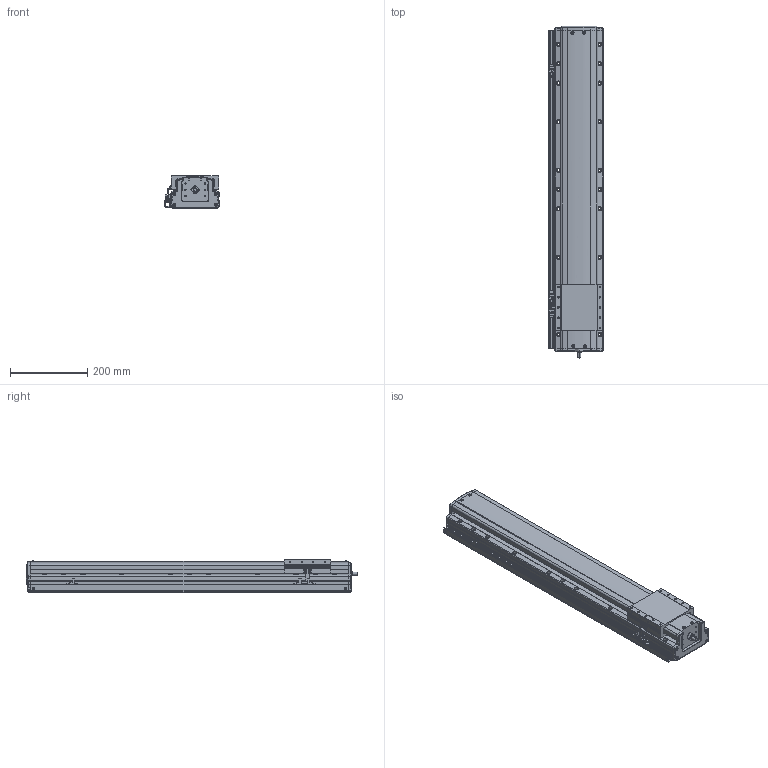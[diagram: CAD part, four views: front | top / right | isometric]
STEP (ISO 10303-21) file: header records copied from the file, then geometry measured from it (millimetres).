
FILE_DESCRIPTION(('STEP AP214'),'1');
FILE_NAME('Z:/Web/3D/PSA125/STP/PSA125-600 (3D)/PSA125ㅁㅁ-600+3SL.stp','2014-06-23T00:26:21',(' '),(' '),'Spatial InterOp 3D',' ',' ');
FILE_SCHEMA(('automotive_design'));
Length unit declared in the file: millimetre
Products named in the file (36): EE-SX674; SBK-SX674-352; 스크루 : Round - M3.0 x 6.0; M3.0 x 6.0; SRL-16x17-380L; SGD-PA95; 스크루 : Round - M3.0 x 8.0; 스크루 : Round - M4.0 x 10.0; RRCV-PA120; SLIDE; BASE; FRCV-PA120-1(기준 뿔 제거); RR1500; 스크루 : Round - M4.0 x 6.0
Bounding box: 141 x 858.1 x 86 mm (x, y, z)
Volume: 7105191 mm3; surface area: 673105.6 mm2
Topology: 36 solids, 36 shells, 2375 faces, 6357 edges, 4082 vertices
Faces by surface type: plane 1367, cylinder 672, cone 228, sphere 52, bspline 31, torus 25
Entity records: 95177 total; most frequent: CARTESIAN_POINT 15578, DIRECTION 12623, ORIENTED_EDGE 12462, EDGE_CURVE 6231, LINE 4247, VECTOR 4247, AXIS2_PLACEMENT_3D 4188, VERTEX_POINT 4082
